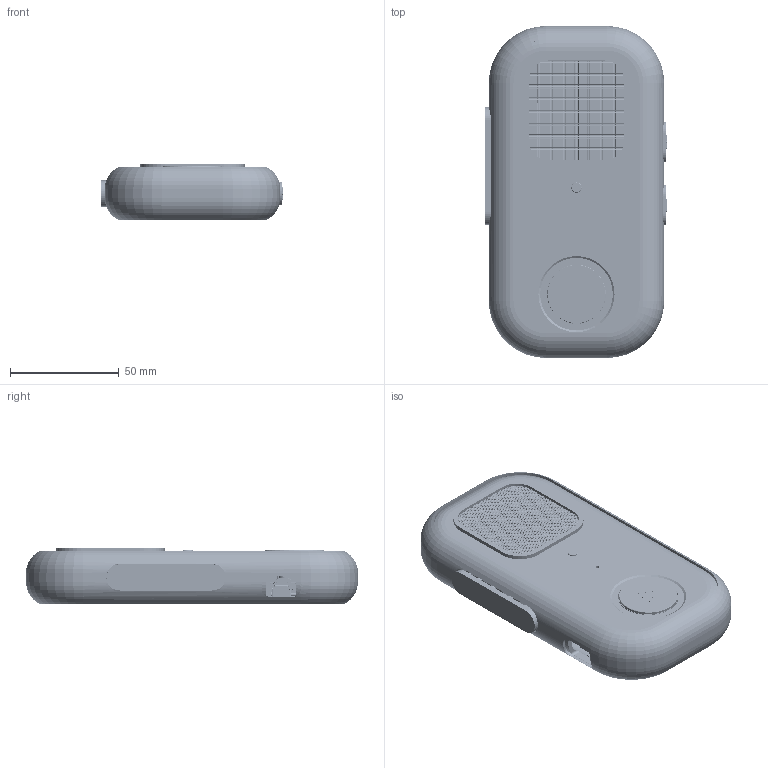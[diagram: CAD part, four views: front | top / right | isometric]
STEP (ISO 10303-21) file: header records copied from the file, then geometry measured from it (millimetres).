
FILE_DESCRIPTION(/* description */ ('Open CASCADE Model'),/* implementation_level */ '2;1');
FILE_NAME(/* name */ 'Walkie_One_28_R3_4_REFERENCE_ASSEMBLY_NOT_FOR_SLICER.step',/* time_stamp */ '2026-09-14T15:06:07-07:00',/* author */ (''),/* organization */ (''),/* preprocessor_version */ 'ST-DEVELOPER v20.1',/* originating_system */ 'Autodesk Translation Framework v15.8.0.0',/* authorisation */ '');
FILE_SCHEMA (('AUTOMOTIVE_DESIGN { 1 0 10303 214 3 1 1 }'));
Products named in the file (193): Walkie_One_Concept_27_R2_REFERENCE_ASSEMBLY; C27_R2_01_Front_Shell_Chalk_Centered_Mic; C27_R2_02_Back_Shell_Chalk; C27_R2_03_Front_Action_Rigid_Carrier; C27_R2_04_Status_Lens; C27_R2_05_Front_Switch_Clamp; C27_R2_06_PTT_Rigid_Carrier; C27_R2_07_Volume_Up_Rigid_Carrier; C27_R2_08_Volume_Down_Rigid_Carrier; C27_R2_09_Warm_Grey_Elastomer_Rim; C27_R2_16_Orange_Ribbed_PTT_Grip; C27_R2_17_PTT_Bond_Film; C27_R2_PCB_Front_Seat_1; C27_R2_PCB_Rear_Preload_1; C27_R2_PCB_Front_Seat_2; C27_R2_PCB_Rear_Preload_2; C27_R2_PCB_Front_Seat_3; C27_R2_PCB_Rear_Preload_3; C27_R2_PCB_Front_Seat_4; C27_R2_PCB_Rear_Preload_4; C27_R2_Battery_Rear_Pad_-1; C27_R2_Battery_Side_Liner_-1; C27_R2_Battery_Rear_Pad_1; C27_R2_Battery_Side_Liner_1; C27_R2_Battery_Lower_Liner; C27_R2_Battery_Upper_Liner_-1; C27_R2_Battery_Upper_Liner_1; C27_R2_Speaker_Front_Gasket; C27_R2_Speaker_Frame_Gasket; C27_R2_Speaker_Acoustic_Mesh; C27_R2_Speaker_Ear_Keeper_1; C27_R2_Speaker_Ear_Preload_1; C27_R2_Speaker_Ear_Keeper_2; C27_R2_Speaker_Ear_Preload_2; C27_R2_Microphone_Removable_Keeper; C27_R2_Microphone_Rear_Preload; C27_R2_Mic_Front_Seat_1; C27_R2_Mic_Front_Seat_2; C27_R2_Mic_Front_Seat_3; C27_R2_Mic_Front_Seat_4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
Assembly tree (254 placements, depth 6):
  Walkie_One_Concept_27_R2_REFERENCE_ASSEMBLY
    C27_R2_01_Front_Shell_Chalk_Centered_Mic
    C27_R2_02_Back_Shell_Chalk
    C27_R2_03_Front_Action_Rigid_Carrier
    C27_R2_04_Status_Lens
    C27_R2_05_Front_Switch_Clamp
    C27_R2_06_PTT_Rigid_Carrier
    C27_R2_07_Volume_Up_Rigid_Carrier
    C27_R2_08_Volume_Down_Rigid_Carrier
    C27_R2_09_Warm_Grey_Elastomer_Rim
    C27_R2_16_Orange_Ribbed_PTT_Grip
    C27_R2_17_PTT_Bond_Film
    C27_R2_PCB_Front_Seat_1
    C27_R2_PCB_Rear_Preload_1
    C27_R2_PCB_Front_Seat_2
    C27_R2_PCB_Rear_Preload_2
    C27_R2_PCB_Front_Seat_3
    C27_R2_PCB_Rear_Preload_3
    C27_R2_PCB_Front_Seat_4
    C27_R2_PCB_Rear_Preload_4
    C27_R2_Battery_Rear_Pad_-1
    C27_R2_Battery_Side_Liner_-1
    C27_R2_Battery_Rear_Pad_1
    C27_R2_Battery_Side_Liner_1
    C27_R2_Battery_Lower_Liner
    C27_R2_Battery_Upper_Liner_-1
    C27_R2_Battery_Upper_Liner_1
    C27_R2_Speaker_Front_Gasket
    C27_R2_Speaker_Frame_Gasket
    C27_R2_Speaker_Acoustic_Mesh
    C27_R2_Speaker_Ear_Keeper_1
    C27_R2_Speaker_Ear_Preload_1
    C27_R2_Speaker_Ear_Keeper_2
    C27_R2_Speaker_Ear_Preload_2
    C27_R2_Microphone_Removable_Keeper
    C27_R2_Microphone_Rear_Preload
    C27_R2_Mic_Front_Seat_1
    C27_R2_Mic_Front_Seat_2
    C27_R2_Mic_Front_Seat_3
    C27_R2_Mic_Front_Seat_4
    C27_R2_Microphone_Acoustic_Seal
    C27_R2_Microphone_Acoustic_Membrane
    C27_R2_LED_Horizontal_Removable_Keeper
    C27_R2_LED_Saddle_Pad_1
    C27_R2_LED_Saddle_Pad_2
    C27_R2_Internal_Right_Angle_Light_Coupler
    C27_R2_Optical_Coupling_Film
    C27_R2_LTE_Lower_Service_Frame
    C27_R2_LTE_Upper_Service_Frame
    C27_R2_LTE_Soft_Stop_-1_1
    C27_R2_LTE_Soft_Stop_-1_2
    C27_R2_LTE_Soft_Stop_1_1
    C27_R2_LTE_Soft_Stop_1_2
    C27_R2_LTE_Dielectric_Seat
    C27_R2_LTE_Seat_Bond_Film
    C27_R2_Rim_Grip_Pad_Left_Lower
    C27_R2_Rim_Grip_Pad_Left_Upper
    C27_R2_Rim_Grip_Pad_Right_Lower
    C27_R2_Rim_Grip_Pad_Right_Upper
    C27_R2_HW_Closure_-33.4_-56
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Bounding box: 83.35 x 152.7 x 25.74 mm (x, y, z)
Volume: 124211.2 mm3; surface area: 169430.9 mm2
Topology: 556 solids, 1921 shells, 20338 faces, 52638 edges, 34811 vertices
Faces by surface type: plane 15194, cylinder 3159, bspline 1763, torus 124, cone 71, sphere 27
Full cylindrical faces by diameter (mm): 0.157 x4, 0.18 x92, 0.3 x63, 0.325 x1, 0.375 x1, 0.4 x2, 0.45 x2, 0.5 x5, 0.6 x4, 0.75 x4, 0.813 x5, 0.9 x8, 1 x22, 1.025 x1, 1.2 x14, 1.37 x4, 1.5 x7, 1.567 x14, 1.7 x22, 1.8 x1, 1.9 x2, 2 x10, 2.013 x4, 2.1 x4, 2.2 x3, 2.3 x12, 2.4 x6, 2.5 x2, 2.6 x2, 2.9 x4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
Entity records: 582800 total; most frequent: CARTESIAN_POINT 151789, DIRECTION 83017, ORIENTED_EDGE 81344, EDGE_CURVE 45076, LINE 34931, VECTOR 34931, VERTEX_POINT 29851, AXIS2_PLACEMENT_3D 24043
